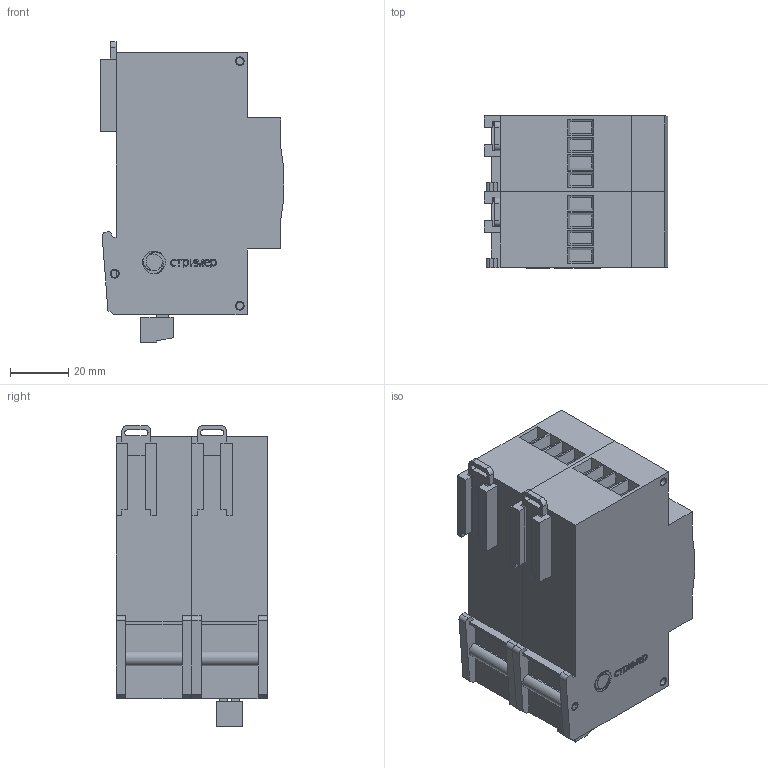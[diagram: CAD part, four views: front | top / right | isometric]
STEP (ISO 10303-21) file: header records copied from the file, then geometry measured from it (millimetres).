
FILE_DESCRIPTION(('TFLEX Exchange Step'),'2;1');
FILE_NAME('X2\041004400442\X0\.201.009.stp', '2022-08-30T14:23:42+03:00',('Ivan Berdigulov'),('Unknown organisation'),'TFLEX Exchange 2019.2','T-FLEX CAD','Unknown authorisation');
FILE_SCHEMA( ('AUTOMOTIVE_DESIGN { 1 0 10303 214 1 1 1 1 }') );
Length unit declared in the file: millimetre
Products named in the file (2): 0
Assembly tree (1 placements, depth 2):
  0
    0
Bounding box: 63.17 x 52.2 x 103.35 mm (x, y, z)
Volume: 239820.6 mm3; surface area: 44617.9 mm2
Topology: 85 solids, 91 shells, 1354 faces, 3380 edges, 2270 vertices
Faces by surface type: plane 834, bspline 350, cylinder 94, torus 50, cone 26
Full cylindrical faces by diameter (mm): 1.6 x2, 2 x12, 2.5 x16, 3 x20, 4 x16
Entity records: 47550 total; most frequent: CARTESIAN_POINT 18093, ORIENTED_EDGE 6652, DIRECTION 4668, EDGE_CURVE 3326, VERTEX_POINT 2270, VECTOR 1734, LINE 1734, EDGE_LOOP 1538
